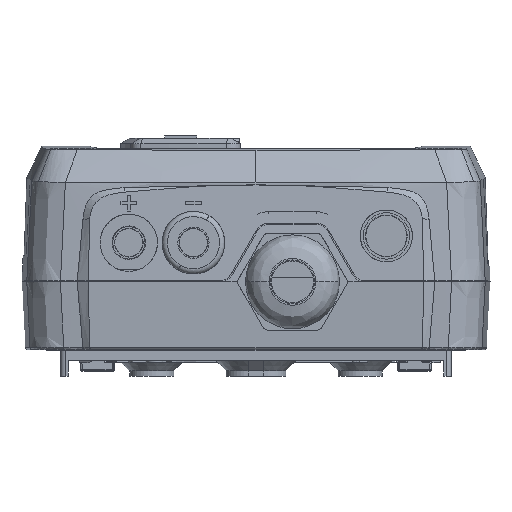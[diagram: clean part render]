
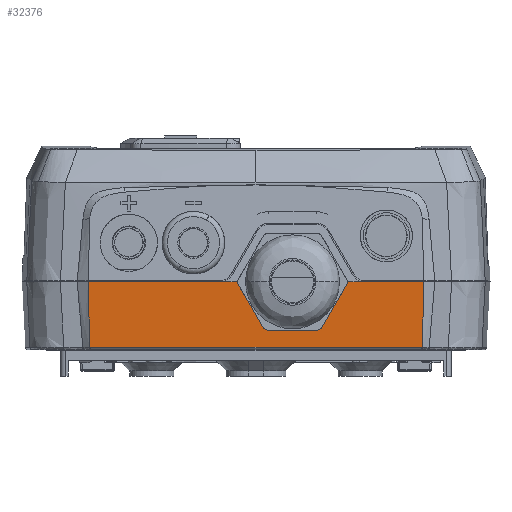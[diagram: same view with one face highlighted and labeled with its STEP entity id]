
A CAD part, front view. The second image highlights one B-rep face of the part: STEP entity #32376.
In plain terms, the highlighted planar face has unit normal (0, -0.999, -0.052).
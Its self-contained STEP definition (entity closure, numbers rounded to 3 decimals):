
#4440=CARTESIAN_POINT('',(31.894,-39.343,
-12.535));
#4442=CARTESIAN_POINT('',(31.894,-39.343,
-12.53));
#4443=CARTESIAN_POINT('',(31.968,-39.429,
-10.904));
#4444=CARTESIAN_POINT('',(32.092,-39.591,
-7.803));
#4445=CARTESIAN_POINT('',(32.198,-39.809,
-3.644));
#4446=CARTESIAN_POINT('',(32.213,-39.939,
-1.164));
#4447=CARTESIAN_POINT('',(32.206,-40.,0.));
#4449=CARTESIAN_POINT('',(-2.21,-40.,0.));
#4450=CARTESIAN_POINT('',(-2.211,-39.972,
-0.543));
#4451=CARTESIAN_POINT('',(-2.118,-39.912,
-1.671));
#4452=CARTESIAN_POINT('',(-1.632,-39.821,
-3.407));
#4453=CARTESIAN_POINT('',(-0.776,-39.734,
-5.081));
#4454=CARTESIAN_POINT('',(0.432,-39.655,
-6.576));
#4455=CARTESIAN_POINT('',(1.923,-39.592,
-7.787));
#4456=CARTESIAN_POINT('',(3.316,-39.554,
-8.505));
#4457=CARTESIAN_POINT('',(4.462,-39.534,
-8.893));
#4458=CARTESIAN_POINT('',(5.324,-39.523,
-9.095));
#4459=CARTESIAN_POINT('',(6.033,-39.518,
-9.192));
#4460=CARTESIAN_POINT('',(6.59,-39.516,
-9.229));
#4461=CARTESIAN_POINT('',(7.,-39.516,-9.238));
#4462=CARTESIAN_POINT('',(7.41,-39.516,
-9.229));
#4463=CARTESIAN_POINT('',(7.967,-39.518,
-9.192));
#4464=CARTESIAN_POINT('',(8.676,-39.523,
-9.095));
#4465=CARTESIAN_POINT('',(9.538,-39.534,
-8.893));
#4466=CARTESIAN_POINT('',(10.684,-39.554,
-8.505));
#4467=CARTESIAN_POINT('',(12.077,-39.592,
-7.787));
#4468=CARTESIAN_POINT('',(13.568,-39.655,
-6.576));
#4469=CARTESIAN_POINT('',(14.776,-39.734,
-5.081));
#4470=CARTESIAN_POINT('',(15.632,-39.821,
-3.407));
#4471=CARTESIAN_POINT('',(16.118,-39.912,
-1.671));
#4472=CARTESIAN_POINT('',(16.211,-39.972,
-0.543));
#4473=CARTESIAN_POINT('',(16.21,-40.,0.));
#4475=DIRECTION('',(-1.,0.,0.));
#4476=VECTOR('',#4475,4.585);
#4477=CARTESIAN_POINT('',(20.794,-40.,0.));
#4478=LINE('',#4477,#4476);
#4479=DIRECTION('',(1.,0.,0.));
#4480=VECTOR('',#4479,63.788);
#4481=CARTESIAN_POINT('',(-31.894,-39.343,
-12.53));
#4482=LINE('',#4481,#4480);
#4483=DIRECTION('',(-1.,0.,0.));
#4484=VECTOR('',#4483,4.585);
#4485=CARTESIAN_POINT('',(-2.21,-40.,0.));
#4486=LINE('',#4485,#4484);
#5383=DIRECTION('',(-1.,0.,0.));
#5384=VECTOR('',#5383,25.412);
#5385=CARTESIAN_POINT('',(-6.794,-40.,0.));
#5386=LINE('',#5385,#5384);
#5511=DIRECTION('',(-1.,0.,0.));
#5512=VECTOR('',#5511,11.412);
#5513=CARTESIAN_POINT('',(32.206,-40.,0.));
#5514=LINE('',#5513,#5512);
#5663=CARTESIAN_POINT('',(-6.794,-40.,0.));
#5725=CARTESIAN_POINT('',(20.794,-40.,0.));
#5796=CARTESIAN_POINT('',(-31.894,-39.343,
-12.535));
#5803=CARTESIAN_POINT('',(-31.894,-39.343,
-12.53));
#5804=CARTESIAN_POINT('',(-31.968,-39.429,
-10.904));
#5805=CARTESIAN_POINT('',(-32.092,-39.591,
-7.803));
#5806=CARTESIAN_POINT('',(-32.198,-39.809,
-3.644));
#5807=CARTESIAN_POINT('',(-32.213,-39.939,
-1.164));
#5808=CARTESIAN_POINT('',(-32.206,-40.,0.));
#24781=VERTEX_POINT('',#4440);
#24784=VERTEX_POINT('',#5796);
#24893=CARTESIAN_POINT('',(32.206,-40.,0.));
#24894=VERTEX_POINT('',#24893);
#24895=CARTESIAN_POINT('',(-32.206,-40.,0.));
#24896=VERTEX_POINT('',#24895);
#24905=VERTEX_POINT('',#5725);
#24906=VERTEX_POINT('',#5663);
#24907=VERTEX_POINT('',#4449);
#24908=VERTEX_POINT('',#4473);
#32354=CARTESIAN_POINT('',(32.206,-40.,0.));
#32355=DIRECTION('',(0.,0.999,0.052));
#32356=DIRECTION('',(1.,0.,0.));
#32357=AXIS2_PLACEMENT_3D('',#32354,#32355,#32356);
#32358=PLANE('',#32357);
#32360=ORIENTED_EDGE('',*,*,#32359,.T.);
#32362=ORIENTED_EDGE('',*,*,#32361,.F.);
#32364=ORIENTED_EDGE('',*,*,#32363,.F.);
#32365=ORIENTED_EDGE('',*,*,#32345,.F.);
#32367=ORIENTED_EDGE('',*,*,#32366,.F.);
#32369=ORIENTED_EDGE('',*,*,#32368,.T.);
#32371=ORIENTED_EDGE('',*,*,#32370,.F.);
#32373=ORIENTED_EDGE('',*,*,#32372,.F.);
#32374=EDGE_LOOP('',(#32360,#32362,#32364,#32365,#32367,#32369,#32371,#32373));
#32375=FACE_OUTER_BOUND('',#32374,.F.);
#4448=B_SPLINE_CURVE_WITH_KNOTS('',3,(#4442,#4443,#4444,#4445,#4446,#4447),
.UNSPECIFIED.,.F.,.F.,(4,1,1,4),(0.,0.333,0.667,1.),
.UNSPECIFIED.);
#4474=B_SPLINE_CURVE_WITH_KNOTS('',3,(#4449,#4450,#4451,#4452,#4453,#4454,#4455,
#4456,#4457,#4458,#4459,#4460,#4461,#4462,#4463,#4464,#4465,#4466,#4467,#4468,
#4469,#4470,#4471,#4472,#4473),.UNSPECIFIED.,.F.,.F.,(4,1,1,1,1,1,1,1,1,1,1,1,1,
1,1,1,1,1,1,1,1,1,4),(0.,0.063,0.125,0.188,0.25,0.313,0.375,
0.406,0.438,0.469,0.484,0.5,0.516,0.531,0.563,
0.594,0.625,0.688,0.75,0.813,0.875,0.938,1.),
.UNSPECIFIED.);
#5809=B_SPLINE_CURVE_WITH_KNOTS('',3,(#5803,#5804,#5805,#5806,#5807,#5808),
.UNSPECIFIED.,.F.,.F.,(4,1,1,4),(0.,0.333,0.667,1.),
.UNSPECIFIED.);
#32345=EDGE_CURVE('',#24781,#24894,#4448,.T.);
#32359=EDGE_CURVE('',#24907,#24908,#4474,.T.);
#32361=EDGE_CURVE('',#24905,#24908,#4478,.T.);
#32363=EDGE_CURVE('',#24894,#24905,#5514,.T.);
#32366=EDGE_CURVE('',#24784,#24781,#4482,.T.);
#32368=EDGE_CURVE('',#24784,#24896,#5809,.T.);
#32370=EDGE_CURVE('',#24906,#24896,#5386,.T.);
#32372=EDGE_CURVE('',#24907,#24906,#4486,.T.);
#32376=ADVANCED_FACE('',(#32375),#32358,.F.);
